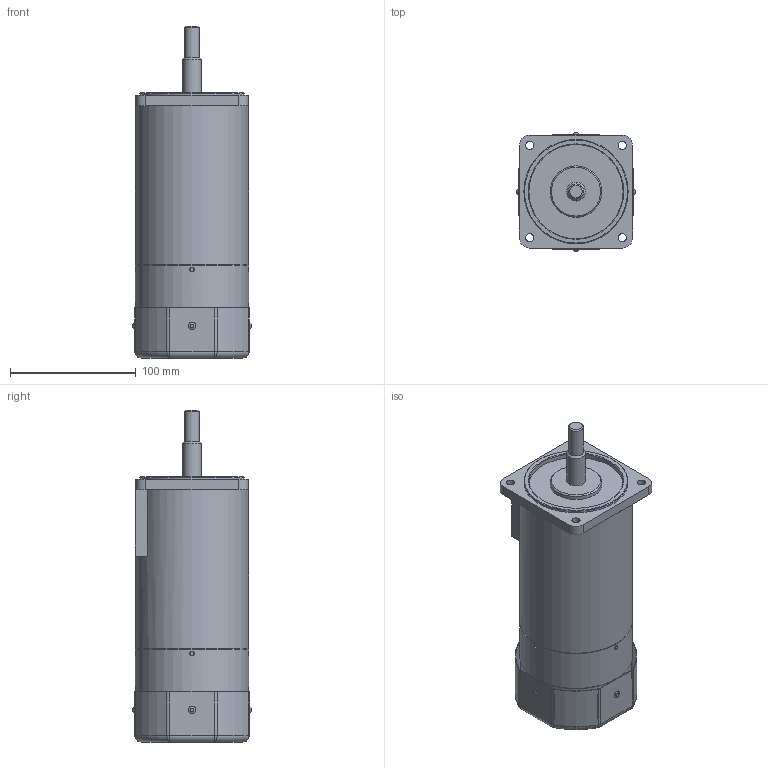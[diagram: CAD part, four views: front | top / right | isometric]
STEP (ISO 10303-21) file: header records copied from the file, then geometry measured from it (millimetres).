
FILE_DESCRIPTION (( 'STEP AP203' ), '1' );
FILE_NAME ('9BDG¤±-180FHC.STEP', '2020-06-19T08:06:01', ( '' ), ( '' ), 'SwSTEP 2.0', 'SolidWorks 2012', '' );
FILE_SCHEMA (( 'CONFIG_CONTROL_DESIGN' ));
Length unit declared in the file: millimetre
Products named in the file (4): 9BDG､ｱ-180FHC; 60BS; FC-F_ル遽; 9IDG､ｱ-180HC_ﾇ･ﾁﾘ
Assembly tree (3 placements, depth 2):
  9BDG､ｱ-180FHC
    9IDG､ｱ-180HC_ﾇ･ﾁﾘ
    FC-F_ル遽
    60BS
Bounding box: 94 x 94 x 264.3 mm (x, y, z)
Volume: 995864.4 mm3; surface area: 139612.8 mm2
Topology: 3 solids, 3 shells, 272 faces, 684 edges, 433 vertices
Faces by surface type: cylinder 153, plane 81, sphere 16, cone 9, torus 9, bspline 4
Full cylindrical faces by diameter (mm): 3 x12, 3.5 x4, 4 x6, 6.1 x1, 6.5 x4, 10.2 x1, 11.93 x1, 13 x1, 15 x1, 38 x1, 40 x1, 41 x1, 67 x1, 75 x1, 83 x2, 85 x1, 86.4 x1, 86.5 x1, 86.7 x1, 87.8 x1, 90 x2
Entity records: 9162 total; most frequent: CARTESIAN_POINT 2336, DIRECTION 1448, ORIENTED_EDGE 1178, AXIS2_PLACEMENT_3D 609, EDGE_CURVE 589, EDGE_LOOP 414, VERTEX_POINT 409, CIRCLE 335
